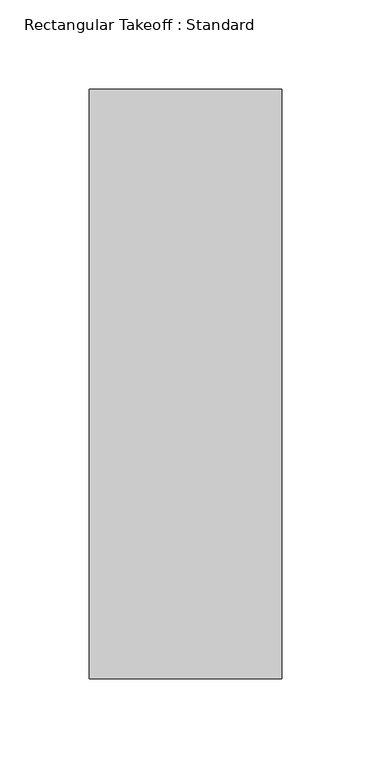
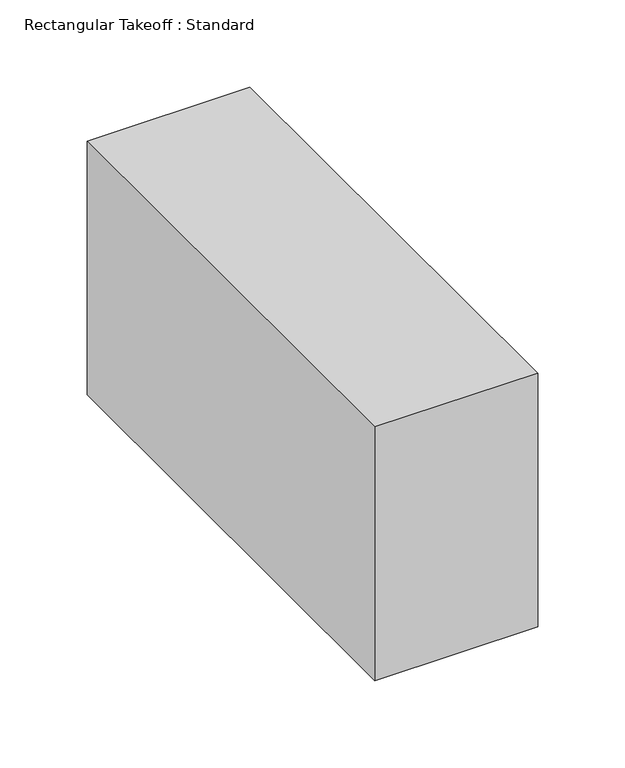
"""IFC4 building model written with IfcOpenShell, lengths in millimetres: duct fitting geometry, Rectangular Takeoff : Standard."""

from ifc_helpers import new_model, si_unit, frame, origin, place, context, project, spatial, polyline, outline, extrude, source, transform, mapped, element, save


def rectangular_takeoff_standard_68f80ab3(model_context):
    return source(origin(), model_context, "Body", "SweptSolid", [
        extrude(outline(polyline([(-6.096, 165.1), (101.6, 165.1), (101.6, -165.1), (-6.096, -165.1), (-6.096, 165.1)])), frame((0.0, 0.0, -88.9), z_axis=(0.0, 0.0, 1.0), x_axis=(1.0, 0.0, 0.0)), (0.0, 0.0, 1.0), 177.8),
    ])


if __name__ == "__main__":
    model = new_model("IFC4")
    model_context = context("Model", 3, world=origin())
    ifc_project = project(units=[si_unit("LENGTHUNIT", "METRE", prefix="MILLI")], contexts=[model_context])
    site = spatial("IfcSite", under=ifc_project)
    building = spatial("IfcBuilding", under=site)
    placement = place(None, origin())
    rectangular_takeoff_standard_shape = rectangular_takeoff_standard_68f80ab3(model_context)
    element("IfcDuctFitting", 1, ObjectType="Rectangular Takeoff : Standard", at=placement, inside=building, context=model_context, shape_type="MappedRepresentation", body=[
        mapped(rectangular_takeoff_standard_shape, transform((0.0, 0.0, 0.0), x_axis=(1.0, 0.0, 0.0), y_axis=(0.0, 1.0, 0.0), z_axis=(0.0, 0.0, 1.0))),
    ])
    save(model, "model.ifc")
